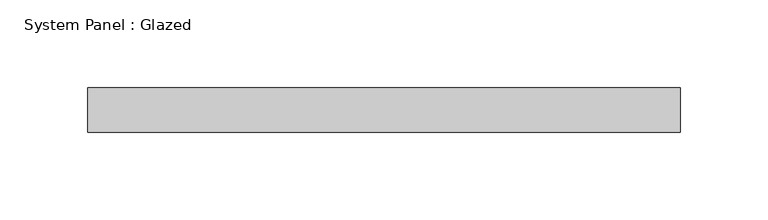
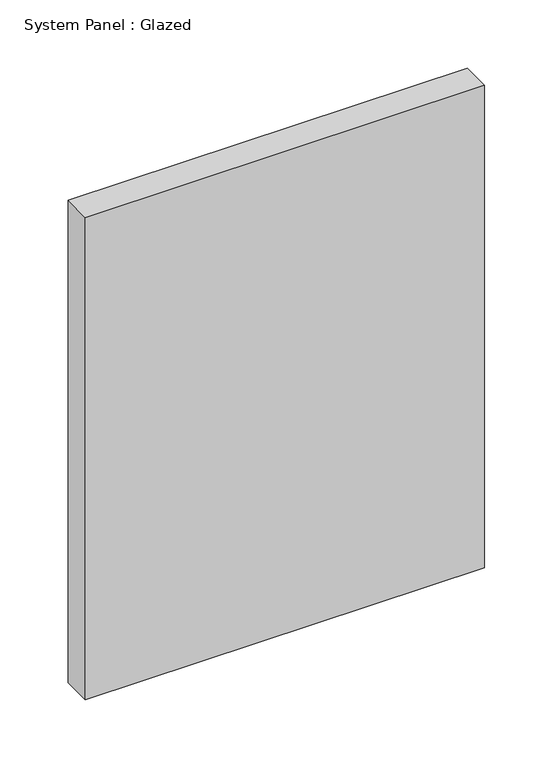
"""IFC4 building model written with IfcOpenShell, lengths in millimetres: plate geometry, System Panel : Glazed."""

import ifcopenshell
import ifcopenshell.guid

model = None  # the IFC model being written
_history = None  # IfcOwnerHistory: only IFC2X3 demands one
_inside = {}  # id of a spatial element -> (the spatial element, [elements in it])
_under = {}  # id of a project, library or spatial element -> (it, [spatial elements below it])
_declared = {}  # id of a project -> (the project, [libraries it declares])
_typed = {}  # id of a type object -> (the type object, [elements of that type])
_made_of = {}  # id of a material, layer set ... -> (it, [elements and type objects made of it])


def new_model(schema):
    """Start an empty IFC model of exactly this schema.

    Asked for "IFC4X3", IfcOpenShell would pick the latest addendum, in which some entities
    have other attributes; the version numbers below select the first issue.
    IFC2X3 requires an IfcOwnerHistory on every rooted entity: one is made here for all.
    """
    global model, _history
    if schema == "IFC4X3":
        model = ifcopenshell.file(schema_version=(4, 3, 0, 0))
    else:
        model = ifcopenshell.file(schema=schema)
    _inside.clear()
    _under.clear()
    _declared.clear()
    _typed.clear()
    _made_of.clear()
    _history = None
    if model.schema == "IFC2X3":
        org = make("IfcOrganization", Name="unknown")
        user = make(
            "IfcPersonAndOrganization",
            ThePerson=make("IfcPerson", FamilyName="unknown"),
            TheOrganization=org,
        )
        app = make(
            "IfcApplication",
            ApplicationDeveloper=org,
            Version="unknown",
            ApplicationFullName="unknown",
            ApplicationIdentifier="unknown",
        )
        _history = make(
            "IfcOwnerHistory",
            OwningUser=user,
            OwningApplication=app,
            ChangeAction="ADDED",
            CreationDate=0,
        )
    return model


def make(cls, **values):
    """One entity of the class cls with the attributes given. An attribute that is None is left unset."""
    return model.create_entity(
        cls, **{name: value for name, value in values.items() if value is not None}
    )


def rooted(cls, **values):
    """An entity with a GlobalId (a new one), such as an element, a storey or a relation."""
    return make(cls, GlobalId=ifcopenshell.guid.new(), OwnerHistory=_history, **values)


def si_unit(unit_type, name, prefix=None):
    """IfcSIUnit, for example si_unit("LENGTHUNIT", "METRE", prefix="MILLI")."""
    return make("IfcSIUnit", UnitType=unit_type, Prefix=prefix, Name=name)


def assignment(units):
    """IfcUnitAssignment: the units of a project."""
    return None if units is None else make("IfcUnitAssignment", Units=units)


def point(xyz):
    """IfcCartesianPoint."""
    return None if xyz is None else make("IfcCartesianPoint", Coordinates=xyz)


def direction(xyz):
    """IfcDirection."""
    return None if xyz is None else make("IfcDirection", DirectionRatios=xyz)


def frame(location, z_axis=None, x_axis=None):
    """IfcAxis2Placement3D, a coordinate frame: its origin and axes. An axis left out is left unset."""
    return make(
        "IfcAxis2Placement3D",
        Location=point(location),
        Axis=direction(z_axis),
        RefDirection=direction(x_axis),
    )


def origin():
    """The frame at (0, 0, 0) with its axes left unset."""
    return frame((0.0, 0.0, 0.0))


def origin_with_axes():
    """The frame at (0, 0, 0) with the z axis (0, 0, 1) and the x axis (1, 0, 0) written out."""
    return frame((0.0, 0.0, 0.0), z_axis=(0.0, 0.0, 1.0), x_axis=(1.0, 0.0, 0.0))


def place(relative_to, where):
    """IfcLocalPlacement: puts the frame where relative to a parent placement (None: the world)."""
    return make(
        "IfcLocalPlacement", PlacementRelTo=relative_to, RelativePlacement=where
    )


def context(
    kind, dimensions, precision=None, world=None, true_north=None, identifier=None
):
    """IfcGeometricRepresentationContext, for example the 3D "Model" context."""
    return make(
        "IfcGeometricRepresentationContext",
        ContextIdentifier=identifier,
        ContextType=kind,
        CoordinateSpaceDimension=dimensions,
        Precision=precision,
        WorldCoordinateSystem=world,
        TrueNorth=true_north,
    )


def project(units=None, contexts=None):
    """IfcProject with its units and contexts."""
    return rooted(
        "IfcProject",
        Name="project",
        RepresentationContexts=contexts,
        UnitsInContext=assignment(units),
    )


def spatial(cls, under=None, at=None, **own):
    """A site, building, storey or space (cls), placed at a placement, below another one or the project."""
    s = rooted(cls, ObjectPlacement=at, **own)
    if under is not None:
        _under.setdefault(under.id(), (under, []))[1].append(s)
    return s


def polyline(points):
    """IfcPolyline through the points."""
    return make("IfcPolyline", Points=[point(p) for p in points])


def outline(outer, holes=None, kind="AREA"):
    """IfcArbitraryClosedProfileDef: a profile drawn as a closed curve; with holes, ...WithVoids."""
    if holes is None:
        return make("IfcArbitraryClosedProfileDef", ProfileType=kind, OuterCurve=outer)
    return make(
        "IfcArbitraryProfileDefWithVoids",
        ProfileType=kind,
        OuterCurve=outer,
        InnerCurves=holes,
    )


def extrude(swept, where, along, depth):
    """IfcExtrudedAreaSolid: the profile swept, set in the frame where, extruded along a direction by depth."""
    return make(
        "IfcExtrudedAreaSolid",
        SweptArea=swept,
        Position=where,
        ExtrudedDirection=direction(along),
        Depth=depth,
    )


def shape(context_of_items, identifier, shape_type, items):
    """IfcShapeRepresentation: the items that make up one representation, for example the "Body"."""
    return make(
        "IfcShapeRepresentation",
        ContextOfItems=context_of_items,
        RepresentationIdentifier=identifier,
        RepresentationType=shape_type,
        Items=items,
    )


def source(mapping_origin, context_of_items, identifier, shape_type, items):
    """IfcRepresentationMap: a shape defined once, which mapped items show again and again."""
    return make(
        "IfcRepresentationMap",
        MappingOrigin=mapping_origin,
        MappedRepresentation=shape(context_of_items, identifier, shape_type, items),
    )


def transform(
    local_origin,
    x_axis=None,
    y_axis=None,
    z_axis=None,
    scale=None,
    scale2=None,
    scale3=None,
    uniform=True,
):
    """IfcCartesianTransformationOperator3D, or its non-uniform kind. x_axis, y_axis, z_axis: its Axis1, 2, 3."""
    if uniform:
        return make(
            "IfcCartesianTransformationOperator3D",
            Axis1=direction(x_axis),
            Axis2=direction(y_axis),
            LocalOrigin=point(local_origin),
            Scale=scale,
            Axis3=direction(z_axis),
        )
    return make(
        "IfcCartesianTransformationOperator3DnonUniform",
        Axis1=direction(x_axis),
        Axis2=direction(y_axis),
        LocalOrigin=point(local_origin),
        Scale=scale,
        Axis3=direction(z_axis),
        Scale2=scale2,
        Scale3=scale3,
    )


def mapped(mapping_source, mapping_target):
    """IfcMappedItem: shows the shape of a source again, moved by a transform."""
    return make(
        "IfcMappedItem", MappingSource=mapping_source, MappingTarget=mapping_target
    )


def made_of(thing, what):
    """Note that an element or type object is made of a material, layer set ...; save() writes the relation."""
    if what is not None:
        _made_of.setdefault(what.id(), (what, []))[1].append(thing)
    return thing


def element(
    cls,
    number,
    at=None,
    inside=None,
    cuts=None,
    type_object=None,
    material=None,
    context=None,
    identifier="Body",
    shape_type=None,
    held_by="IfcProductDefinitionShape",
    body=None,
    shapes=None,
    **own,
):
    """One element of the class cls, such as IfcWall. Its Tag is "e" and its number.

    at: its placement. inside: the storey or other place that contains it. cuts: it is an
    opening in that element (IfcRelVoidsElement). A single representation is given by context,
    identifier, shape_type and body (its items); several are given by shapes. held_by: the class
    of the entity that holds the representations. save() writes the other relations.
    """
    e = rooted(cls, Tag="e%d" % number, ObjectPlacement=at, **own)
    if body is not None:
        shapes = [shape(context, identifier, shape_type, body)]
    if shapes is not None:
        e.Representation = make(held_by, Representations=shapes)
    if inside is not None:
        _inside.setdefault(inside.id(), (inside, []))[1].append(e)
    if cuts is not None:
        rooted(
            "IfcRelVoidsElement", RelatingBuildingElement=cuts, RelatedOpeningElement=e
        )
    if type_object is not None:
        _typed.setdefault(type_object.id(), (type_object, []))[1].append(e)
    return made_of(e, material)


def aggregate(whole, parts):
    """IfcRelAggregates: a whole, such as a stair, and the parts it consists of."""
    return rooted("IfcRelAggregates", RelatingObject=whole, RelatedObjects=parts)


def save(model, path):
    """Write the relations noted so far, then the file.

    IfcRelAggregates (storeys below a building ...), IfcRelContainedInSpatialStructure (elements
    in a storey), IfcRelDefinesByType, IfcRelAssociatesMaterial and IfcRelDeclares: one each for
    every whole, place, type object, material and project.
    """
    for whole, parts in _under.values():
        aggregate(whole, parts)
    for where, things in _inside.values():
        rooted(
            "IfcRelContainedInSpatialStructure",
            RelatedElements=things,
            RelatingStructure=where,
        )
    for kind, things in _typed.values():
        rooted("IfcRelDefinesByType", RelatedObjects=things, RelatingType=kind)
    for what, things in _made_of.values():
        rooted("IfcRelAssociatesMaterial", RelatedObjects=things, RelatingMaterial=what)
    for by, libraries in _declared.values():
        rooted("IfcRelDeclares", RelatingContext=by, RelatedDefinitions=libraries)
    model.write(path)


def system_panel_glazed_52470d25(model_context):
    return source(origin(), model_context, "Body", "SweptSolid", [
        extrude(outline(polyline([(169.1685437, -44.45), (-169.1685437, -44.45), (-169.1685437, -19.05), (169.1685437, -19.05), (169.1685437, -44.45)])), origin_with_axes(), (0.0, 0.0, 1.0), 431.8),
    ])


if __name__ == "__main__":
    model = new_model("IFC4")
    model_context = context("Model", 3, world=origin())
    ifc_project = project(units=[si_unit("LENGTHUNIT", "METRE", prefix="MILLI")], contexts=[model_context])
    site = spatial("IfcSite", under=ifc_project)
    building = spatial("IfcBuilding", under=site)
    placement = place(None, origin())
    system_panel_glazed_shape = system_panel_glazed_52470d25(model_context)
    element("IfcPlate", 1, ObjectType="System Panel : Glazed", at=placement, inside=building, context=model_context, shape_type="MappedRepresentation", body=[
        mapped(system_panel_glazed_shape, transform((0.0, 0.0, 0.0), x_axis=(1.0, 0.0, 0.0), y_axis=(0.0, 1.0, 0.0), z_axis=(0.0, 0.0, 1.0))),
    ])
    save(model, "model.ifc")
